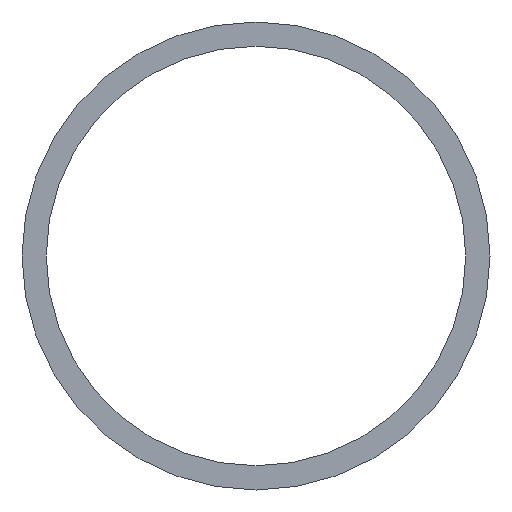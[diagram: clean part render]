
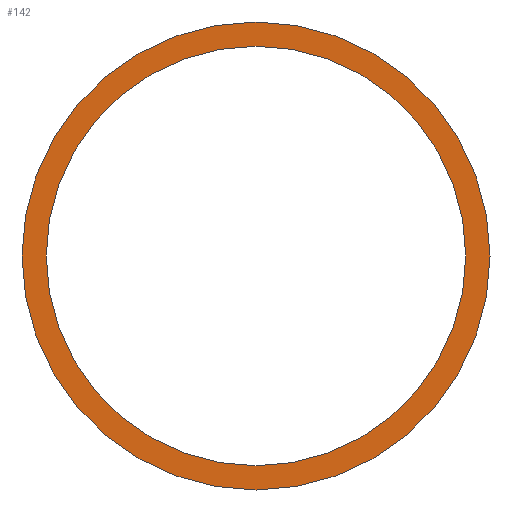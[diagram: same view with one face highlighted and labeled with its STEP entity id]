
A CAD part, front view. The second image highlights one B-rep face of the part: STEP entity #142.
In plain terms, the highlighted planar face has unit normal (0, -1, 0).
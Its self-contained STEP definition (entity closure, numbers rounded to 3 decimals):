
#1 = DIRECTION ( 'NONE',  ( 0., 1., 0. ) ) ;
#2 = VERTEX_POINT ( 'NONE', #159 ) ;
#3 = DIRECTION ( 'NONE',  ( 0., 0., 1. ) ) ;
#8 = DIRECTION ( 'NONE',  ( 0., 0., 1. ) ) ;
#9 = EDGE_CURVE ( 'NONE', #106, #114, #53, .T. ) ;
#18 = AXIS2_PLACEMENT_3D ( 'NONE', #87, #35, #8 ) ;
#23 = VERTEX_POINT ( 'NONE', #97 ) ;
#27 = EDGE_LOOP ( 'NONE', ( #128, #75 ) ) ;
#28 = DIRECTION ( 'NONE',  ( 0., 0., 1. ) ) ;
#34 = DIRECTION ( 'NONE',  ( 0., 1., 0. ) ) ;
#35 = DIRECTION ( 'NONE',  ( 0., 1., 0. ) ) ;
#38 = CIRCLE ( 'NONE', #134, 24.15 ) ;
#42 = CARTESIAN_POINT ( 'NONE',  ( 6085., -8273., 6275.85 ) ) ;
#44 = DIRECTION ( 'NONE',  ( 0., 0., 1. ) ) ;
#53 = CIRCLE ( 'NONE', #96, 21.65 ) ;
#55 = CARTESIAN_POINT ( 'NONE',  ( 6085., -8273., 6297.5 ) ) ;
#59 = ORIENTED_EDGE ( 'NONE', *, *, #185, .F. ) ;
#61 = FACE_OUTER_BOUND ( 'NONE', #131, .T. ) ;
#64 = PLANE ( 'NONE',  #138 ) ;
#66 = ORIENTED_EDGE ( 'NONE', *, *, #198, .F. ) ;
#75 = ORIENTED_EDGE ( 'NONE', *, *, #147, .T. ) ;
#85 = CARTESIAN_POINT ( 'NONE',  ( 6085., -8273., 6275.85 ) ) ;
#87 = CARTESIAN_POINT ( 'NONE',  ( 6085., -8273., 6275.85 ) ) ;
#96 = AXIS2_PLACEMENT_3D ( 'NONE', #42, #178, #28 ) ;
#97 = CARTESIAN_POINT ( 'NONE',  ( 6085., -8273., 6300. ) ) ;
#106 = VERTEX_POINT ( 'NONE', #143 ) ;
#113 = CIRCLE ( 'NONE', #18, 24.15 ) ;
#114 = VERTEX_POINT ( 'NONE', #55 ) ;
#117 = CARTESIAN_POINT ( 'NONE',  ( 6085., -8273., 6275.85 ) ) ;
#128 = ORIENTED_EDGE ( 'NONE', *, *, #9, .T. ) ;
#131 = EDGE_LOOP ( 'NONE', ( #66, #59 ) ) ;
#132 = DIRECTION ( 'NONE',  ( 0., 1., 0. ) ) ;
#134 = AXIS2_PLACEMENT_3D ( 'NONE', #85, #34, #153 ) ;
#138 = AXIS2_PLACEMENT_3D ( 'NONE', #117, #132, #3 ) ;
#142 = ADVANCED_FACE ( 'NONE', ( #61, #179 ), #64, .F. ) ;
#143 = CARTESIAN_POINT ( 'NONE',  ( 6085., -8273., 6254.2 ) ) ;
#147 = EDGE_CURVE ( 'NONE', #114, #106, #160, .T. ) ;
#149 = CARTESIAN_POINT ( 'NONE',  ( 6085., -8273., 6275.85 ) ) ;
#153 = DIRECTION ( 'NONE',  ( 0., 0., 1. ) ) ;
#159 = CARTESIAN_POINT ( 'NONE',  ( 6085., -8273., 6251.7 ) ) ;
#160 = CIRCLE ( 'NONE', #177, 21.65 ) ;
#177 = AXIS2_PLACEMENT_3D ( 'NONE', #149, #1, #44 ) ;
#178 = DIRECTION ( 'NONE',  ( 0., 1., 0. ) ) ;
#179 = FACE_BOUND ( 'NONE', #27, .T. ) ;
#185 = EDGE_CURVE ( 'NONE', #23, #2, #38, .T. ) ;
#198 = EDGE_CURVE ( 'NONE', #2, #23, #113, .T. ) ;
